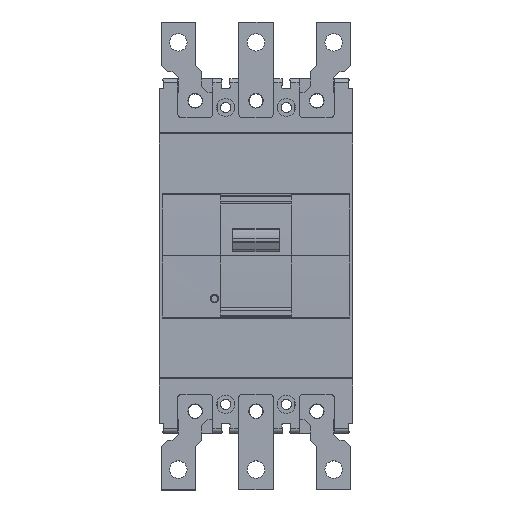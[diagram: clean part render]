
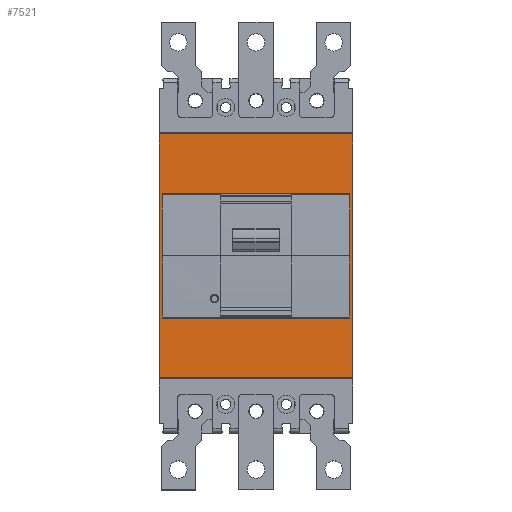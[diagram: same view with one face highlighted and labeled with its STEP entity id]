
A CAD part, top view. The second image highlights one B-rep face of the part: STEP entity #7521.
In plain terms, the highlighted planar face has unit normal (0, 0, 1).
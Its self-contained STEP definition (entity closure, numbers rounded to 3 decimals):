
#195 = CARTESIAN_POINT ( 'NONE',  ( 70., 88.317, 103. ) ) ;
#460 = CARTESIAN_POINT ( 'NONE',  ( -70., 88.317, 103. ) ) ;
#557 = LINE ( 'NONE', #8281, #1950 ) ;
#624 = VERTEX_POINT ( 'NONE', #10180 ) ;
#907 = CARTESIAN_POINT ( 'NONE',  ( 68., -45., 103. ) ) ;
#1162 = AXIS2_PLACEMENT_3D ( 'NONE', #11949, #3179, #6055 ) ;
#1338 = VERTEX_POINT ( 'NONE', #7545 ) ;
#1713 = EDGE_CURVE ( 'NONE', #3473, #1338, #4675, .T. ) ;
#1821 = DIRECTION ( 'NONE',  ( 0., -1., 0. ) ) ;
#1950 = VECTOR ( 'NONE', #3493, 1000. ) ;
#2330 = VERTEX_POINT ( 'NONE', #195 ) ;
#2560 = VECTOR ( 'NONE', #12301, 1000. ) ;
#2917 = EDGE_CURVE ( 'NONE', #12675, #11818, #557, .T. ) ;
#3047 = EDGE_CURVE ( 'NONE', #624, #3378, #5330, .T. ) ;
#3179 = DIRECTION ( 'NONE',  ( 0., 0., 1. ) ) ;
#3190 = VECTOR ( 'NONE', #6331, 1000. ) ;
#3378 = VERTEX_POINT ( 'NONE', #460 ) ;
#3408 = ORIENTED_EDGE ( 'NONE', *, *, #3947, .T. ) ;
#3473 = VERTEX_POINT ( 'NONE', #11520 ) ;
#3493 = DIRECTION ( 'NONE',  ( 0., -1., 0. ) ) ;
#3947 = EDGE_CURVE ( 'NONE', #11818, #1338, #6530, .T. ) ;
#3975 = FACE_OUTER_BOUND ( 'NONE', #7816, .T. ) ;
#4082 = VERTEX_POINT ( 'NONE', #8680 ) ;
#4675 = LINE ( 'NONE', #4779, #5756 ) ;
#4779 = CARTESIAN_POINT ( 'NONE',  ( -68., 0., 103. ) ) ;
#4829 = CARTESIAN_POINT ( 'NONE',  ( 70., -88.317, 103. ) ) ;
#4863 = ORIENTED_EDGE ( 'NONE', *, *, #11437, .T. ) ;
#5073 = CARTESIAN_POINT ( 'NONE',  ( 70., 45., 103. ) ) ;
#5330 = LINE ( 'NONE', #6753, #8075 ) ;
#5546 = EDGE_CURVE ( 'NONE', #4082, #624, #9527, .T. ) ;
#5592 = CARTESIAN_POINT ( 'NONE',  ( 70., -45., 103. ) ) ;
#5756 = VECTOR ( 'NONE', #1821, 1000. ) ;
#5832 = LINE ( 'NONE', #8067, #9480 ) ;
#5957 = VECTOR ( 'NONE', #6202, 1000. ) ;
#6055 = DIRECTION ( 'NONE',  ( 0., -1., 0. ) ) ;
#6202 = DIRECTION ( 'NONE',  ( -1., 0., 0. ) ) ;
#6331 = DIRECTION ( 'NONE',  ( 0., 1., 0. ) ) ;
#6530 = LINE ( 'NONE', #5592, #2560 ) ;
#6539 = CARTESIAN_POINT ( 'NONE',  ( 68., 45., 103. ) ) ;
#6592 = FACE_BOUND ( 'NONE', #10666, .T. ) ;
#6734 = ORIENTED_EDGE ( 'NONE', *, *, #2917, .T. ) ;
#6753 = CARTESIAN_POINT ( 'NONE',  ( -70., 0., 103. ) ) ;
#7176 = LINE ( 'NONE', #5073, #5957 ) ;
#7521 = ADVANCED_FACE ( 'NONE', ( #6592, #3975 ), #9796, .T. ) ;
#7545 = CARTESIAN_POINT ( 'NONE',  ( -68., -45., 103. ) ) ;
#7770 = DIRECTION ( 'NONE',  ( 0., 1., 0. ) ) ;
#7816 = EDGE_LOOP ( 'NONE', ( #8033, #9386, #9914, #4863 ) ) ;
#8033 = ORIENTED_EDGE ( 'NONE', *, *, #3047, .F. ) ;
#8067 = CARTESIAN_POINT ( 'NONE',  ( 70., 88.317, 103. ) ) ;
#8075 = VECTOR ( 'NONE', #7770, 1000. ) ;
#8237 = CARTESIAN_POINT ( 'NONE',  ( 70., 0., 103. ) ) ;
#8281 = CARTESIAN_POINT ( 'NONE',  ( 68., 0., 103. ) ) ;
#8680 = CARTESIAN_POINT ( 'NONE',  ( 70., -88.317, 103. ) ) ;
#8801 = DIRECTION ( 'NONE',  ( -1., 0., 0. ) ) ;
#9086 = DIRECTION ( 'NONE',  ( -1., 0., 0. ) ) ;
#9098 = EDGE_CURVE ( 'NONE', #12675, #3473, #7176, .T. ) ;
#9386 = ORIENTED_EDGE ( 'NONE', *, *, #5546, .F. ) ;
#9480 = VECTOR ( 'NONE', #9086, 1000. ) ;
#9527 = LINE ( 'NONE', #4829, #10446 ) ;
#9796 = PLANE ( 'NONE',  #1162 ) ;
#9914 = ORIENTED_EDGE ( 'NONE', *, *, #12541, .T. ) ;
#10180 = CARTESIAN_POINT ( 'NONE',  ( -70., -88.317, 103. ) ) ;
#10302 = ORIENTED_EDGE ( 'NONE', *, *, #1713, .F. ) ;
#10345 = ORIENTED_EDGE ( 'NONE', *, *, #9098, .F. ) ;
#10446 = VECTOR ( 'NONE', #8801, 1000. ) ;
#10666 = EDGE_LOOP ( 'NONE', ( #6734, #3408, #10302, #10345 ) ) ;
#11437 = EDGE_CURVE ( 'NONE', #2330, #3378, #5832, .T. ) ;
#11520 = CARTESIAN_POINT ( 'NONE',  ( -68., 45., 103. ) ) ;
#11719 = LINE ( 'NONE', #8237, #3190 ) ;
#11818 = VERTEX_POINT ( 'NONE', #907 ) ;
#11949 = CARTESIAN_POINT ( 'NONE',  ( 70., 0., 103. ) ) ;
#12301 = DIRECTION ( 'NONE',  ( -1., 0., 0. ) ) ;
#12541 = EDGE_CURVE ( 'NONE', #4082, #2330, #11719, .T. ) ;
#12675 = VERTEX_POINT ( 'NONE', #6539 ) ;
